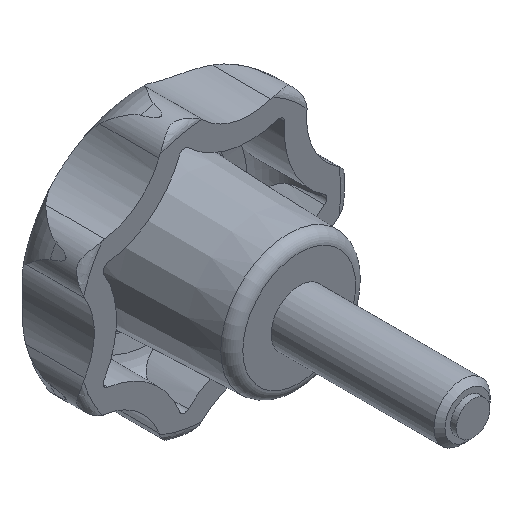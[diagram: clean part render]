
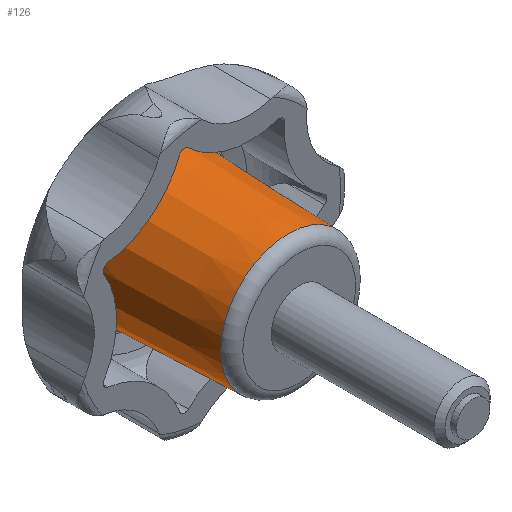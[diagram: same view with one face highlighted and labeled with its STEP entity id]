
A CAD part, isometric view. The second image highlights one B-rep face of the part: STEP entity #126.
In plain terms, the highlighted conical face has half-angle 2 degrees and reference radius 6.449 mm.
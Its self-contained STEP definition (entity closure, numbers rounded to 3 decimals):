
#126 = ADVANCED_FACE( '', ( #254, #255 ), #256, .T. );
#254 = FACE_BOUND( '', #407, .T. );
#255 = FACE_OUTER_BOUND( '', #408, .T. );
#256 = CONICAL_SURFACE( '', #409, 6.449, 0.035 );
#407 = EDGE_LOOP( '', ( #907 ) );
#408 = EDGE_LOOP( '', ( #908 ) );
#409 = AXIS2_PLACEMENT_3D( '', #909, #910, #911 );
#907 = ORIENTED_EDGE( '', *, *, #1190, .F. );
#908 = ORIENTED_EDGE( '', *, *, #1189, .T. );
#909 = CARTESIAN_POINT( '', ( 0., 12.87, 0. ) );
#910 = DIRECTION( '', ( 0., 1., 0. ) );
#911 = DIRECTION( '', ( 0., 0., 1. ) );
#1189 = EDGE_CURVE( '', #1483, #1483, #1484, .T. );
#1190 = EDGE_CURVE( '', #1485, #1485, #1486, .T. );
#1483 = VERTEX_POINT( '', #2712 );
#1484 = CIRCLE( '', #2713, 6.449 );
#1485 = VERTEX_POINT( '', #2714 );
#1486 = CIRCLE( '', #2715, 6.034 );
#2712 = CARTESIAN_POINT( '', ( 0., 12.87, -6.449 ) );
#2713 = AXIS2_PLACEMENT_3D( '', #3016, #3017, #3018 );
#2714 = CARTESIAN_POINT( '', ( 0., 0.965, -6.034 ) );
#2715 = AXIS2_PLACEMENT_3D( '', #3019, #3020, #3021 );
#3016 = CARTESIAN_POINT( '', ( 0., 12.87, 0. ) );
#3017 = DIRECTION( '', ( 0., -1., 0. ) );
#3018 = DIRECTION( '', ( 0., 0., -1. ) );
#3019 = CARTESIAN_POINT( '', ( 0., 0.965, 0. ) );
#3020 = DIRECTION( '', ( 0., -1., 0. ) );
#3021 = DIRECTION( '', ( 0., 0., -1. ) );
